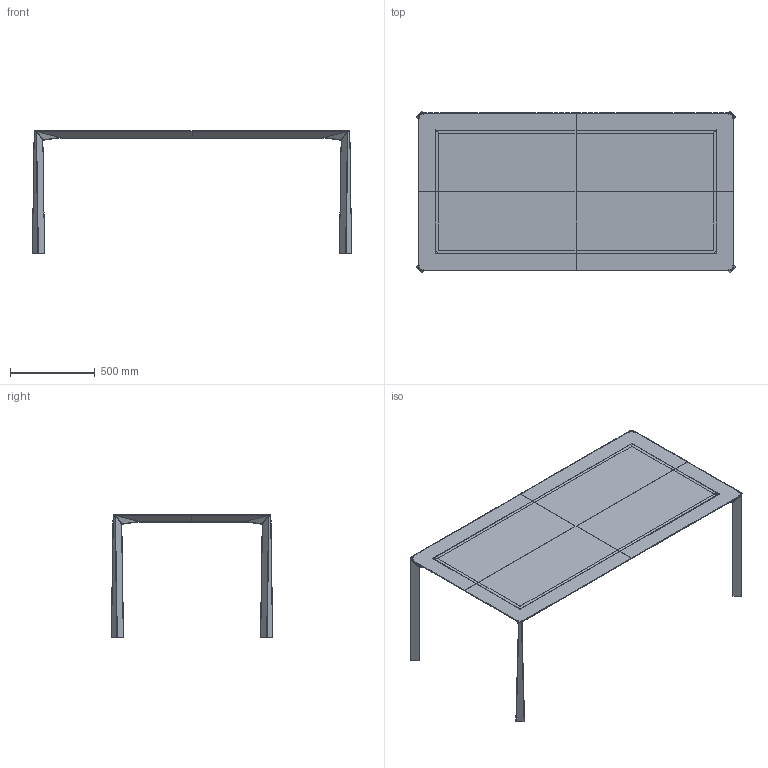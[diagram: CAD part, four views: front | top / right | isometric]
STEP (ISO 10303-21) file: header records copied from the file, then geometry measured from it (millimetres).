
FILE_DESCRIPTION(/* description */ (''),/* implementation_level */ '2;1');
FILE_NAME(/* name */ 'ovidio L 186x93x72h 3D',/* time_stamp */ '2017-05-31T11:23:23+02:00',/* author */ (''),/* organization */ (''),/* preprocessor_version */ 'ST-DEVELOPER v10',/* originating_system */ '',/* authorisation */ '');
FILE_SCHEMA (('CONFIG_CONTROL_DESIGN'));
Length unit declared in the file: millimetre
Products named in the file (1): 1
Bounding box: 1881.92 x 951.92 x 721.53 mm (x, y, z)
Surface area: 6004068.9 mm2 (no closed solid volume)
Topology: 0 solids, 1164 shells, 1164 faces, 5804 edges, 5804 vertices
Faces by surface type: bspline 636, plane 528
Entity records: 59652 total; most frequent: CARTESIAN_POINT 29662, ORIENTED_EDGE 5804, EDGE_CURVE 5804, VERTEX_POINT 5804, B_SPLINE_CURVE_WITH_KNOTS 4744, EDGE_LOOP 1196, SHELL_BASED_SURFACE_MODEL 1164, OPEN_SHELL 1164
